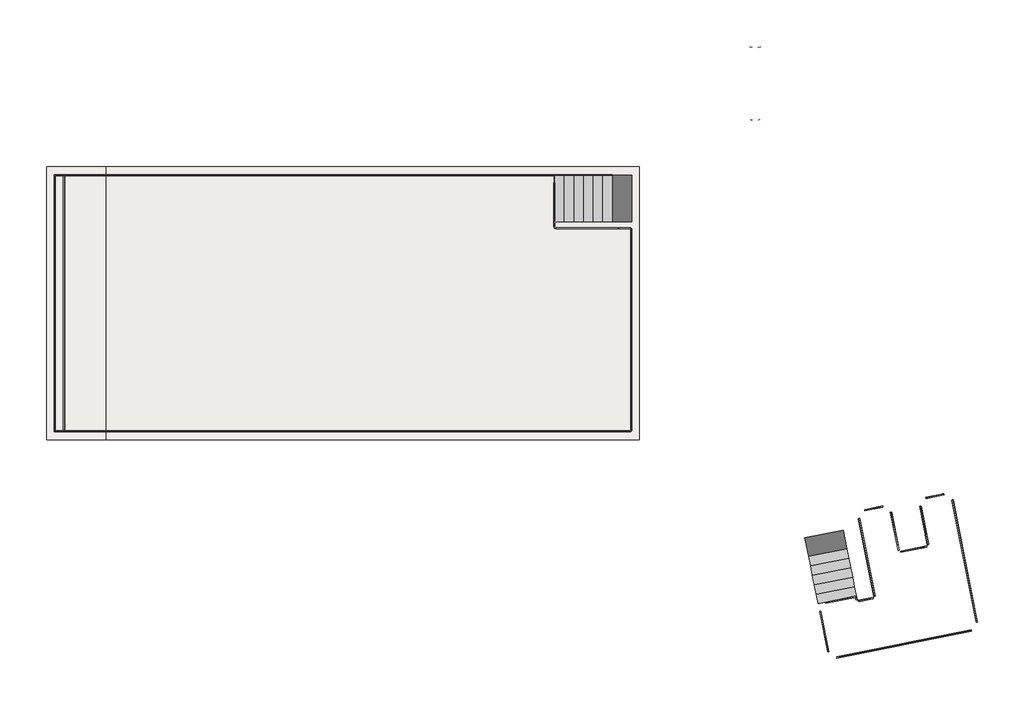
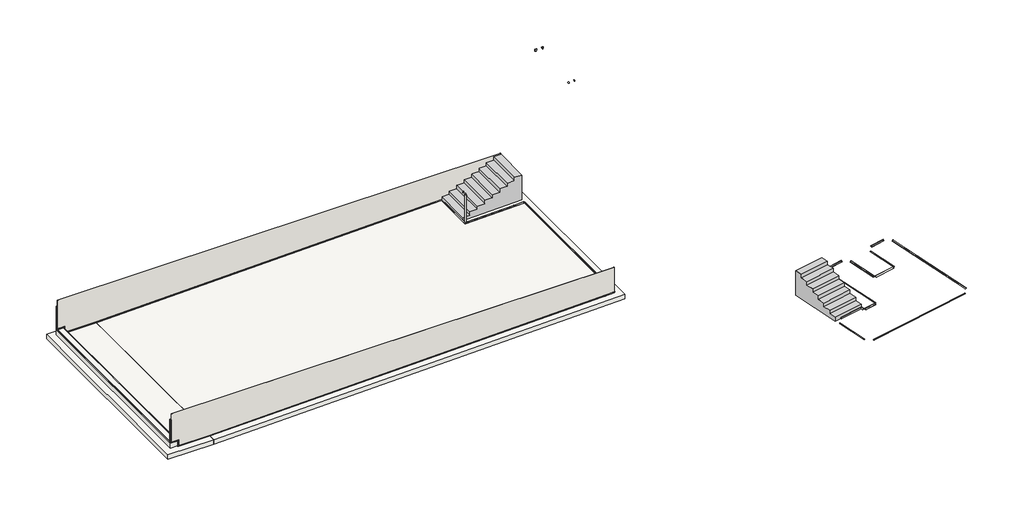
# One storey, incomplete: 38 slabs, 13 proxies, 3 walls, 2 stairs.
"""IFC4 building model written with IfcOpenShell, lengths in millimetres."""

from ifc_helpers import new_model, si_unit, frame, origin, place, context, project, spatial, polyline, outline, extrude, faceted_brep, transform, mapped, element, save
from components import pieza_114_aqua_azul_liso_fd1d6eeb, pieza_115_aqua_azul_anti_slip_2f38e3b8, pieza_116_aqua_azul_liso_e9a23e22, pieza_112_aqua_azul_liso_2357ec52, pieza_112_aqua_azul_liso_420040c8, pieza_112_aqua_azul_liso_63a14f7b, pieza_112_aqua_azul_liso_4e2f667c, pieza_112_aqua_azul_liso_2e144e22, pieza_112_aqua_azul_liso_e5a649f2, pieza_112_aqua_azul_liso_4ddbef43, pieza_112_aqua_azul_liso_153d0df2, pieza_112_aqua_azul_liso_1d791782, pieza_112_aqua_azul_liso_3965653e, pieza_112_aqua_azul_liso_69a263eb, pieza_112_aqua_azul_liso_b1956d64, pieza_112_aqua_azul_liso_6104ae89, pieza_112_aqua_azul_liso_401beb7e, pieza_112_aqua_azul_liso_5a065275, pieza_112_aqua_azul_liso_7449915b, pieza_112_aqua_azul_liso_1b1000f3, pieza_112_aqua_azul_liso_9c2345ba, pieza_112_aqua_azul_liso_7a62d313, pieza_112_aqua_azul_liso_100cf10b, pieza_112_aqua_azul_liso_19044048, pieza_112_aqua_azul_liso_17dfa691, pieza_112_aqua_azul_liso_063fb988, pieza_112_aqua_azul_liso_38c58097, pieza_112_aqua_azul_liso_dedf870e, pieza_112_aqua_azul_liso_ddc9c549, pieza_112_aqua_azul_liso_9a706029, pieza_112_aqua_azul_liso_16b9f8b8, pieza_112_aqua_azul_liso_6c293751, pieza_138_aqua_azul_liso_61aa3b8b, pieza_138_aqua_azul_liso_4e60f0d0, escalera_p1_escalera_p1_af88919a, escalera_p3_escalera_p3_fb3b3af3

model = new_model("IFC4")

# Units and contexts
model_context = context("Model", 3, world=origin())
ifc_project = project(units=[si_unit("LENGTHUNIT", "METRE", prefix="MILLI")], contexts=[model_context])

# Site, building, storey
site = spatial("IfcSite", under=ifc_project)
building = spatial("IfcBuilding", under=site)
storey = spatial("IfcBuildingStorey", under=building, Name="5_NFondo2P1 -1.6", Elevation=-1600.4)

# Proxies
placement = place(None, origin())
pieza_114_aqua_azul_liso_shape = pieza_114_aqua_azul_liso_fd1d6eeb(model_context)
element("IfcBuildingElementProxy", 1, Name="ROSA GRES_114 : Pieza 114_Aqua_Azul_Liso", ObjectType="ROSA GRES_114 : Pieza 114_Aqua_Azul_Liso", at=placement, inside=storey, context=model_context, shape_type="MappedRepresentation", body=[
    mapped(pieza_114_aqua_azul_liso_shape, transform((25488.3846824, -35211.5019609, -1209.4155011), x_axis=(-0.9997016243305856, 0.0, -0.024426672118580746), y_axis=(0.0, -1.0, 0.0), z_axis=(-0.024426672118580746, 0.0, 0.9997016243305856))),
])
element("IfcBuildingElementProxy", 2, Name="ROSA GRES_114 : Pieza 114_Aqua_Azul_Liso", ObjectType="ROSA GRES_114 : Pieza 114_Aqua_Azul_Liso", at=placement, inside=storey, context=model_context, shape_type="MappedRepresentation", body=[
    mapped(pieza_114_aqua_azul_liso_shape, transform((7767.4274549, -27191.4842352, -1610.4), x_axis=(1.0, 0.0, 0.0), y_axis=(0.0, 1.0, 0.0), z_axis=(0.0, 0.0, 1.0))),
])
element("IfcBuildingElementProxy", 3, Name="ROSA GRES_114 : Pieza 114_Aqua_Azul_Liso", ObjectType="ROSA GRES_114 : Pieza 114_Aqua_Azul_Liso", at=placement, inside=storey, context=model_context, shape_type="MappedRepresentation", body=[
    mapped(pieza_114_aqua_azul_liso_shape, transform((7767.4274549, -35211.5019609, -1610.4), x_axis=(0.0, 1.0, 0.0), y_axis=(-1.0, 0.0, 0.0), z_axis=(0.0, 0.0, 1.0))),
])
element("IfcBuildingElementProxy", 4, Name="ROSA GRES_114 : Pieza 114_Aqua_Azul_Liso", ObjectType="ROSA GRES_114 : Pieza 114_Aqua_Azul_Liso", at=placement, inside=storey, context=model_context, shape_type="MappedRepresentation", body=[
    mapped(pieza_114_aqua_azul_liso_shape, transform((25488.4008795, -28841.4842352, -1209.419462), x_axis=(0.0, -1.0, 0.0), y_axis=(0.9997016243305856, 0.0, 0.024426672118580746), z_axis=(-0.024426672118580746, 0.0, 0.9997016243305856))),
])
pieza_115_aqua_azul_anti_slip_shape = pieza_115_aqua_azul_anti_slip_2f38e3b8(model_context)
element("IfcBuildingElementProxy", 5, Name="ROSA GRES_115 : Pieza 115_Aqua_Azul_Anti-Slip", ObjectType="ROSA GRES_115 : Pieza 115_Aqua_Azul_Anti-Slip", at=placement, inside=storey, context=model_context, shape_type="MappedRepresentation", body=[
    mapped(pieza_115_aqua_azul_anti_slip_shape, transform((23117.4363125, -28691.493098, -40.4), x_axis=(-1.0, 0.0, 0.0), y_axis=(0.0, -1.0, 0.0), z_axis=(0.0, 0.0, 1.0))),
])
element("IfcBuildingElementProxy", 6, Name="ROSA GRES_115 : Pieza 115_Aqua_Azul_Anti-Slip", ObjectType="ROSA GRES_115 : Pieza 115_Aqua_Azul_Anti-Slip", at=placement, inside=storey, context=model_context, shape_type="MappedRepresentation", body=[
    mapped(pieza_115_aqua_azul_anti_slip_shape, transform((23117.3978394, -28811.5196866, -40.4), x_axis=(0.0, -1.0, 0.0), y_axis=(1.0, 0.0, 0.0), z_axis=(0.0, 0.0, 1.0))),
])
element("IfcBuildingElementProxy", 7, Name="ROSA GRES_115 : Pieza 115_Aqua_Azul_Anti-Slip", ObjectType="ROSA GRES_115 : Pieza 115_Aqua_Azul_Anti-Slip", at=placement, inside=storey, context=model_context, shape_type="MappedRepresentation", body=[
    mapped(pieza_115_aqua_azul_anti_slip_shape, transform((29437.4363177, -25461.493098, 559.6), x_axis=(1.0, 0.0, 0.0), y_axis=(0.0, 1.0, 0.0), z_axis=(0.0, 0.0, 1.0))),
])
element("IfcBuildingElementProxy", 8, Name="ROSA GRES_115 : Pieza 115_Aqua_Azul_Anti-Slip", ObjectType="ROSA GRES_115 : Pieza 115_Aqua_Azul_Anti-Slip", at=placement, inside=storey, context=model_context, shape_type="MappedRepresentation", body=[
    mapped(pieza_115_aqua_azul_anti_slip_shape, transform((29232.4363177, -25461.493098, 559.6), x_axis=(0.0, -1.0, 0.0), y_axis=(1.0, 0.0, 0.0), z_axis=(0.0, 0.0, 1.0))),
])
pieza_116_aqua_azul_liso_shape = pieza_116_aqua_azul_liso_e9a23e22(model_context)
element("IfcBuildingElementProxy", 9, Name="ROSA GRES_116 : Pieza 116_Aqua_Azul_Liso", ObjectType="ROSA GRES_116 : Pieza 116_Aqua_Azul_Liso", at=placement, inside=storey, context=model_context, shape_type="MappedRepresentation", body=[
    mapped(pieza_116_aqua_azul_liso_shape, transform((7737.4363177, -27191.5196869, -1390.4), x_axis=(0.0, 0.0, 1.0), y_axis=(-1.0, 0.0, 0.0), z_axis=(0.0, -1.0, 0.0))),
])
element("IfcBuildingElementProxy", 10, Name="ROSA GRES_116 : Pieza 116_Aqua_Azul_Liso", ObjectType="ROSA GRES_116 : Pieza 116_Aqua_Azul_Liso", at=placement, inside=storey, context=model_context, shape_type="MappedRepresentation", body=[
    mapped(pieza_116_aqua_azul_liso_shape, transform((7737.4363177, -35211.4665095, -1390.4), x_axis=(1.0, 0.0, 0.0), y_axis=(0.0, 0.0, -1.0), z_axis=(0.0, 1.0, 0.0))),
])
element("IfcBuildingElementProxy", 11, Name="ROSA GRES_116 : Pieza 116_Aqua_Azul_Liso", ObjectType="ROSA GRES_116 : Pieza 116_Aqua_Azul_Liso", at=placement, inside=storey, context=model_context, shape_type="MappedRepresentation", body=[
    mapped(pieza_116_aqua_azul_liso_shape, transform((23118.3240854, -28811.5196866, -1267.3254732), x_axis=(0.0, -1.0, 0.0), y_axis=(0.9997016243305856, 0.0, 0.024426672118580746), z_axis=(-0.024426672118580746, 0.0, 0.9997016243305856))),
])
element("IfcBuildingElementProxy", 12, Name="ROSA GRES_116 : Pieza 116_Aqua_Azul_Liso", ObjectType="ROSA GRES_116 : Pieza 116_Aqua_Azul_Liso", at=placement, inside=storey, context=model_context, shape_type="MappedRepresentation", body=[
    mapped(pieza_116_aqua_azul_liso_shape, transform((29437.4629063, -23191.5196869, 559.6), x_axis=(0.0, 0.0, 1.0), y_axis=(-1.0, 0.0, 0.0), z_axis=(0.0, -1.0, 0.0))),
])
element("IfcBuildingElementProxy", 13, Name="ROSA GRES_116 : Pieza 116_Aqua_Azul_Liso", ObjectType="ROSA GRES_116 : Pieza 116_Aqua_Azul_Liso", at=placement, inside=storey, context=model_context, shape_type="MappedRepresentation", body=[
    mapped(pieza_116_aqua_azul_liso_shape, transform((29232.4363177, -23191.5196869, 559.6), x_axis=(-1.0, 0.0, 0.0), y_axis=(0.0, 0.0, -1.0), z_axis=(0.0, -1.0, 0.0))),
])

# Slabs
element("IfcSlab", 14, ObjectType="GENÉRICO_LOSA PISCINA_Estructura_20 cm", at=placement, inside=storey, context=model_context, shape_type="SweptSolid", body=[
    extrude(outline(polyline([(7227.4363177, -26942.493098), (9077.4363177, -26942.493098), (9077.4363177, -35460.493098), (7227.4363177, -35460.493098), (7227.4363177, -26942.493098)])), frame((0.0, 0.0, -1810.4), z_axis=(0.0, 0.0, 1.0), x_axis=(1.0, 0.0, 0.0)), (0.0, 0.0, 1.0), 200.0),
])
element("IfcSlab", 15, ObjectType="GENÉRICO_LOSA PISCINA_Estructura_20 cm", at=placement, inside=storey, context=model_context, shape_type="SweptSolid", body=[
    extrude(outline(polyline([(-1810.4596929, 9077.4363177), (-1403.6342153, 25727.4363177), (-1203.5745224, 25727.4363177), (-1610.4, 9077.4363177), (-1810.4596929, 9077.4363177)])), frame((0.0, -35460.493098, 0.0), z_axis=(0.0, 1.0, 0.0), x_axis=(0.0, 0.0, 1.0)), (0.0, 0.0, 1.0), 8518.0),
])
element("IfcSlab", 16, ObjectType="Pieza 244 G1_Patrón Recto_Aqua_Azul_Liso", at=placement, inside=storey, context=model_context, shape_type="SweptSolid", body=[
    extrude(outline(polyline([(7737.4363177, -27231.493098), (7737.4363177, -35171.493098), (7507.4363177, -35171.493098), (7507.4363177, -27231.493098), (7737.4363177, -27231.493098)])), frame((0.0, 0.0, -1359.4), z_axis=(0.0, 0.0, 1.0), x_axis=(1.0, 0.0, 0.0)), (0.0, 0.0, 1.0), 9.0),
])
element("IfcSlab", 17, ObjectType="Pieza 244 G1_Patrón Recto_Aqua_Azul_Liso", at=placement, inside=storey, context=model_context, shape_type="SweptSolid", body=[
    extrude(outline(polyline([(7807.0363177, -27231.5196866), (9077.4363177, -27231.5196866), (9077.4363177, -35171.4665095), (7807.0363177, -35171.4665095), (7807.0363177, -27231.5196866)])), frame((0.0, 0.0, -1609.4), z_axis=(0.0, 0.0, 1.0), x_axis=(1.0, 0.0, 0.0)), (0.0, 0.0, 1.0), 9.0),
])
element("IfcSlab", 18, ObjectType="GENÉRICO_LOSA PISCINA_Estructura_20 cm", at=placement, inside=storey, context=model_context, shape_type="SweptSolid", body=[
    extrude(outline(polyline([(7752.4274549, -27192.493098), (7752.4274549, -35210.493098), (7468.4363177, -35210.493098), (7468.4363177, -27192.493098), (7752.4274549, -27192.493098)])), frame((0.0, 0.0, -1560.4), z_axis=(0.0, 0.0, 1.0), x_axis=(1.0, 0.0, 0.0)), (0.0, 0.0, 1.0), 200.0),
])
element("IfcSlab", 19, ObjectType="Pieza 244 G1_Patrón Recto_Aqua_Azul_Liso", at=placement, inside=storey, context=model_context, shape_type="Brep", body=[
    faceted_brep([(9077.4363177, -27231.5196866, -1609.4026862), (23048.1098108, -27231.5196866, -1268.0433991), (23048.1098108, -28881.5196866, -1268.0433991), (25448.0745536, -28881.5196866, -1209.4026862), (25448.0745536, -35171.4665095, -1209.4026862), (9077.4363177, -35171.4665095, -1609.4026862), (9077.4363177, -27231.5196866, -1600.4), (9077.4363177, -35171.4665095, -1600.4), (25448.0745536, -35171.4665095, -1200.4), (25448.0745536, -28881.5196866, -1200.4), (23048.1098108, -28881.5196866, -1259.0407129), (23048.1098108, -27231.5196866, -1259.0407129)], [[[0, 1, 2, 3, 4, 5]], [[6, 7, 8, 9, 10, 11]], [[1, 0, 6, 11]], [[2, 1, 11, 10]], [[3, 2, 10, 9]], [[4, 3, 9, 8]], [[5, 4, 8, 7]], [[0, 5, 7, 6]]]),
])
pieza_112_aqua_azul_liso_shape = pieza_112_aqua_azul_liso_2357ec52(model_context)
element("IfcSlab", 20, ObjectType="ROSA GRES_112 : Pieza 112_Aqua_Azul_Liso", at=placement, inside=storey, context=model_context, shape_type="MappedRepresentation", body=[
    mapped(pieza_112_aqua_azul_liso_shape, transform((7807.5196457, -27191.5196866, -1610.4), x_axis=(1.0, 0.0, 0.0), y_axis=(0.0, 1.0, 0.0), z_axis=(0.0, 0.0, 1.0))),
])
pieza_112_aqua_azul_liso_2_shape = pieza_112_aqua_azul_liso_420040c8(model_context)
element("IfcSlab", 21, ObjectType="ROSA GRES_112 : Pieza 112_Aqua_Azul_Liso", at=placement, inside=storey, context=model_context, shape_type="MappedRepresentation", body=[
    mapped(pieza_112_aqua_azul_liso_2_shape, transform((7767.4629063, -35171.4687669, -1610.4), x_axis=(0.0, 1.0, 0.0), y_axis=(-1.0, 0.0, 0.0), z_axis=(0.0, 0.0, 1.0))),
])
element("IfcSlab", 22, ObjectType="ROSA GRES_112 : Pieza 112_Aqua_Azul_Liso", at=placement, inside=storey, context=model_context, shape_type="MappedRepresentation", body=[
    mapped(pieza_112_aqua_azul_liso_2_shape, transform((7467.4629063, -35171.493098, -1360.4), x_axis=(0.0, 1.0, 0.0), y_axis=(-1.0, 0.0, 0.0), z_axis=(0.0, 0.0, 1.0))),
])
pieza_112_aqua_azul_liso_3_shape = pieza_112_aqua_azul_liso_63a14f7b(model_context)
element("IfcSlab", 23, ObjectType="ROSA GRES_112 : Pieza 112_Aqua_Azul_Liso", at=placement, inside=storey, context=model_context, shape_type="MappedRepresentation", body=[
    mapped(pieza_112_aqua_azul_liso_3_shape, transform((7807.4629063, -35211.4665095, -1610.4), x_axis=(1.0, 0.0, 0.0), y_axis=(0.0, 1.0, 0.0), z_axis=(0.0, 0.0, 1.0))),
])
pieza_112_aqua_azul_liso_4_shape = pieza_112_aqua_azul_liso_4e2f667c(model_context)
element("IfcSlab", 24, ObjectType="ROSA GRES_112 : Pieza 112_Aqua_Azul_Liso", at=placement, inside=storey, context=model_context, shape_type="MappedRepresentation", body=[
    mapped(pieza_112_aqua_azul_liso_4_shape, transform((25073.4265433, -35211.4665095, -1219.5545728), x_axis=(-0.9997016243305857, 0.0, -0.02442667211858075), y_axis=(0.0, -1.0, 0.0), z_axis=(-0.024426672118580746, 0.0, 0.9997016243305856))),
])
pieza_112_aqua_azul_liso_5_shape = pieza_112_aqua_azul_liso_2e144e22(model_context)
element("IfcSlab", 25, ObjectType="ROSA GRES_112 : Pieza 112_Aqua_Azul_Liso", at=placement, inside=storey, context=model_context, shape_type="MappedRepresentation", body=[
    mapped(pieza_112_aqua_azul_liso_5_shape, transform((25488.3062359, -29171.396514, -1209.4174179), x_axis=(0.0, -1.0, 0.0), y_axis=(0.9997016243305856, 0.0, 0.024426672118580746), z_axis=(-0.024426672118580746, 0.0, 0.9997016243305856))),
])
pieza_112_aqua_azul_liso_6_shape = pieza_112_aqua_azul_liso_e5a649f2(model_context)
element("IfcSlab", 26, ObjectType="ROSA GRES_112 : Pieza 112_Aqua_Azul_Liso", at=placement, inside=storey, context=model_context, shape_type="MappedRepresentation", body=[
    mapped(pieza_112_aqua_azul_liso_6_shape, transform((9077.5195961, -27191.5196866, -1610.3979652), x_axis=(0.9997016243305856, 0.0, 0.02442667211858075), y_axis=(0.0, 1.0, 0.0), z_axis=(-0.024426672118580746, 0.0, 0.9997016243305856))),
])
pieza_112_aqua_azul_liso_7_shape = pieza_112_aqua_azul_liso_4ddbef43(model_context)
element("IfcSlab", 27, ObjectType="ROSA GRES_112 : Pieza 112_Aqua_Azul_Liso", at=placement, inside=storey, context=model_context, shape_type="MappedRepresentation", body=[
    mapped(pieza_112_aqua_azul_liso_7_shape, transform((7507.4363177, -35211.4665095, -1360.4), x_axis=(1.0, 0.0, 0.0), y_axis=(0.0, 1.0, 0.0), z_axis=(0.0, 0.0, 1.0))),
])
pieza_112_aqua_azul_liso_8_shape = pieza_112_aqua_azul_liso_153d0df2(model_context)
element("IfcSlab", 28, ObjectType="ROSA GRES_112 : Pieza 112_Aqua_Azul_Liso", at=placement, inside=storey, context=model_context, shape_type="MappedRepresentation", body=[
    mapped(pieza_112_aqua_azul_liso_8_shape, transform((7507.4363177, -27191.5196866, -1360.4), x_axis=(1.0, 0.0, 0.0), y_axis=(0.0, 1.0, 0.0), z_axis=(0.0, 0.0, 1.0))),
])
pieza_112_aqua_azul_liso_9_shape = pieza_112_aqua_azul_liso_1d791782(model_context)
element("IfcSlab", 29, ObjectType="ROSA GRES_112 : Pieza 112_Aqua_Azul_Liso", at=placement, inside=storey, context=model_context, shape_type="MappedRepresentation", body=[
    mapped(pieza_112_aqua_azul_liso_9_shape, transform((7767.4363177, -27191.4665095, -1570.4), x_axis=(0.0, 0.0, 1.0), y_axis=(0.0, -1.0, 0.0), z_axis=(1.0, 0.0, 0.0))),
])
pieza_112_aqua_azul_liso_10_shape = pieza_112_aqua_azul_liso_3965653e(model_context)
element("IfcSlab", 30, ObjectType="ROSA GRES_112 : Pieza 112_Aqua_Azul_Liso", at=placement, inside=storey, context=model_context, shape_type="MappedRepresentation", body=[
    mapped(pieza_112_aqua_azul_liso_10_shape, transform((7767.4629063, -35211.4665095, -1570.3645486), x_axis=(0.0, 0.0, 1.0), y_axis=(0.0, -1.0, 0.0), z_axis=(1.0, 0.0, 0.0))),
])
pieza_112_aqua_azul_liso_11_shape = pieza_112_aqua_azul_liso_69a263eb(model_context)
element("IfcSlab", 31, ObjectType="ROSA GRES_112 : Pieza 112_Aqua_Azul_Liso", at=placement, inside=storey, context=model_context, shape_type="MappedRepresentation", body=[
    mapped(pieza_112_aqua_azul_liso_11_shape, transform((25072.7407609, -28841.5196866, -1219.5713292), x_axis=(-0.9997016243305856, 0.0, -0.024426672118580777), y_axis=(0.0, -1.0, 0.0), z_axis=(-0.024426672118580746, 0.0, 0.9997016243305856))),
])
pieza_112_aqua_azul_liso_12_shape = pieza_112_aqua_azul_liso_b1956d64(model_context)
element("IfcSlab", 32, ObjectType="ROSA GRES_112 : Pieza 112_Aqua_Azul_Liso", at=placement, inside=storey, context=model_context, shape_type="MappedRepresentation", body=[
    mapped(pieza_112_aqua_azul_liso_12_shape, transform((23088.3414931, -27434.981981, -1268.0580667), x_axis=(0.0, -1.0, 0.0), y_axis=(0.9997016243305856, 0.0, 0.024426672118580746), z_axis=(-0.024426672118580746, 0.0, 0.9997016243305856))),
])
pieza_112_aqua_azul_liso_13_shape = pieza_112_aqua_azul_liso_6104ae89(model_context)
element("IfcSlab", 33, ObjectType="ROSA GRES_112 : Pieza 112_Aqua_Azul_Liso", at=placement, inside=storey, context=model_context, shape_type="MappedRepresentation", body=[
    mapped(pieza_112_aqua_azul_liso_13_shape, transform((25073.4265433, -35211.4665095, -1219.5545728), x_axis=(0.9997016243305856, 0.0, 0.024426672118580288), y_axis=(0.0, 0.9999999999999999, 0.0), z_axis=(-0.024426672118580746, 0.0, 0.9997016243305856))),
])
pieza_112_aqua_azul_liso_14_shape = pieza_112_aqua_azul_liso_401beb7e(model_context)
element("IfcSlab", 34, ObjectType="ROSA GRES_112 : Pieza 112_Aqua_Azul_Liso", at=placement, inside=storey, context=model_context, shape_type="MappedRepresentation", body=[
    mapped(pieza_112_aqua_azul_liso_14_shape, transform((25488.3062359, -29171.3859473, -1209.415968), x_axis=(0.0, 1.0, 0.0), y_axis=(-0.9997016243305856, 0.0, -0.024426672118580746), z_axis=(-0.024426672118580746, 0.0, 0.9997016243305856))),
])
pieza_112_aqua_azul_liso_15_shape = pieza_112_aqua_azul_liso_5a065275(model_context)
element("IfcSlab", 35, ObjectType="ROSA GRES_112 : Pieza 112_Aqua_Azul_Liso", at=placement, inside=storey, context=model_context, shape_type="MappedRepresentation", body=[
    mapped(pieza_112_aqua_azul_liso_15_shape, transform((7467.4363177, -27191.493098, -357.0549087), x_axis=(0.0, 0.0, -1.0), y_axis=(0.0, 1.0, 0.0), z_axis=(1.0, 0.0, 0.0))),
])
pieza_112_aqua_azul_liso_16_shape = pieza_112_aqua_azul_liso_7449915b(model_context)
element("IfcSlab", 36, ObjectType="ROSA GRES_112 : Pieza 112_Aqua_Azul_Liso", at=placement, inside=storey, context=model_context, shape_type="MappedRepresentation", body=[
    mapped(pieza_112_aqua_azul_liso_16_shape, transform((7467.4363177, -35211.493098, -357.1768947), x_axis=(0.0, 0.0, -1.0), y_axis=(-1.0, 0.0, 0.0), z_axis=(0.0, 1.0, 0.0))),
])
pieza_112_aqua_azul_liso_17_shape = pieza_112_aqua_azul_liso_1b1000f3(model_context)
element("IfcSlab", 37, ObjectType="ROSA GRES_112 : Pieza 112_Aqua_Azul_Liso", at=placement, inside=storey, context=model_context, shape_type="MappedRepresentation", body=[
    mapped(pieza_112_aqua_azul_liso_17_shape, transform((25072.7407609, -28841.5196866, -1219.5713292), x_axis=(0.9997016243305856, 0.0, 0.02442667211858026), y_axis=(0.0, 0.9999999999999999, 0.0), z_axis=(-0.024426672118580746, 0.0, 0.9997016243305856))),
])
pieza_112_aqua_azul_liso_18_shape = pieza_112_aqua_azul_liso_9c2345ba(model_context)
element("IfcSlab", 38, ObjectType="ROSA GRES_112 : Pieza 112_Aqua_Azul_Liso", at=placement, inside=storey, context=model_context, shape_type="MappedRepresentation", body=[
    mapped(pieza_112_aqua_azul_liso_18_shape, transform((36272.4032277, -41145.321454, -1210.5), x_axis=(-0.19618194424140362, 0.9805675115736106, 0.0), y_axis=(-0.9805675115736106, -0.19618194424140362, 0.0), z_axis=(0.0, 0.0, 1.0))),
])
pieza_112_aqua_azul_liso_19_shape = pieza_112_aqua_azul_liso_7a62d313(model_context)
element("IfcSlab", 39, ObjectType="ROSA GRES_112 : Pieza 112_Aqua_Azul_Liso", at=placement, inside=storey, context=model_context, shape_type="MappedRepresentation", body=[
    mapped(pieza_112_aqua_azul_liso_19_shape, transform((35223.0299158, -37141.7247214, -1210.5), x_axis=(-0.9805675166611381, -0.19618191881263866, 0.0), y_axis=(0.19618191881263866, -0.9805675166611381, 0.0), z_axis=(0.0, 0.0, 1.0))),
])
pieza_112_aqua_azul_liso_20_shape = pieza_112_aqua_azul_liso_100cf10b(model_context)
element("IfcSlab", 40, ObjectType="ROSA GRES_112 : Pieza 112_Aqua_Azul_Liso", at=placement, inside=storey, context=model_context, shape_type="MappedRepresentation", body=[
    mapped(pieza_112_aqua_azul_liso_20_shape, transform((33310.9706419, -37524.2700055, -1210.5), x_axis=(-0.9805675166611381, -0.19618191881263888, 0.0), y_axis=(0.19618191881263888, -0.9805675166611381, 0.0), z_axis=(0.0, 0.0, 1.0))),
])
pieza_112_aqua_azul_liso_21_shape = pieza_112_aqua_azul_liso_19044048(model_context)
element("IfcSlab", 41, ObjectType="ROSA GRES_112 : Pieza 112_Aqua_Azul_Liso", at=placement, inside=storey, context=model_context, shape_type="MappedRepresentation", body=[
    mapped(pieza_112_aqua_azul_liso_21_shape, transform((32559.85165, -37922.8717931, -1210.5), x_axis=(0.19618194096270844, -0.9805675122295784, 0.0), y_axis=(0.9805675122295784, 0.19618194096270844, 0.0), z_axis=(0.0, 0.0, 1.0))),
])
pieza_112_aqua_azul_liso_22_shape = pieza_112_aqua_azul_liso_17dfa691(model_context)
element("IfcSlab", 42, ObjectType="ROSA GRES_112 : Pieza 112_Aqua_Azul_Liso", at=placement, inside=storey, context=model_context, shape_type="MappedRepresentation", body=[
    mapped(pieza_112_aqua_azul_liso_22_shape, transform((33836.5001517, -38909.8062875, -1210.5), x_axis=(-0.1961819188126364, 0.9805675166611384, 0.0), y_axis=(-0.9805675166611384, -0.1961819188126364, 0.0), z_axis=(0.0, 0.0, 1.0))),
])
pieza_112_aqua_azul_liso_23_shape = pieza_112_aqua_azul_liso_063fb988(model_context)
element("IfcSlab", 43, ObjectType="ROSA GRES_112 : Pieza 112_Aqua_Azul_Liso", at=placement, inside=storey, context=model_context, shape_type="MappedRepresentation", body=[
    mapped(pieza_112_aqua_azul_liso_23_shape, transform((34687.545059, -38770.1324552, -1210.5), x_axis=(-0.9805675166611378, -0.19618191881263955, 0.0), y_axis=(0.19618191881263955, -0.9805675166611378, 0.0), z_axis=(0.0, 0.0, 1.0))),
])
pieza_112_aqua_azul_liso_24_shape = pieza_112_aqua_azul_liso_38c58097(model_context)
element("IfcSlab", 44, ObjectType="ROSA GRES_112 : Pieza 112_Aqua_Azul_Liso", at=placement, inside=storey, context=model_context, shape_type="MappedRepresentation", body=[
    mapped(pieza_112_aqua_azul_liso_24_shape, transform((34472.0157497, -37540.3007806, -1210.5), x_axis=(0.19618191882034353, -0.9805675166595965, 0.0), y_axis=(0.9805675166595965, 0.19618191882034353, 0.0), z_axis=(0.0, 0.0, 1.0))),
])
pieza_112_aqua_azul_liso_25_shape = pieza_112_aqua_azul_liso_dedf870e(model_context)
element("IfcSlab", 45, ObjectType="ROSA GRES_112 : Pieza 112_Aqua_Azul_Liso", at=placement, inside=storey, context=model_context, shape_type="MappedRepresentation", body=[
    mapped(pieza_112_aqua_azul_liso_25_shape, transform((32554.3467484, -40474.1670361, -1210.5), x_axis=(0.9805674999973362, 0.19618200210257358, 0.0), y_axis=(-0.19618200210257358, 0.9805674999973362, 0.0), z_axis=(0.0, 0.0, 1.0))),
])
pieza_112_aqua_azul_liso_26_shape = pieza_112_aqua_azul_liso_ddc9c549(model_context)
element("IfcSlab", 46, ObjectType="ROSA GRES_112 : Pieza 112_Aqua_Azul_Liso", at=placement, inside=storey, context=model_context, shape_type="MappedRepresentation", body=[
    mapped(pieza_112_aqua_azul_liso_26_shape, transform((31887.2179669, -42271.1058847, -1210.5), x_axis=(0.9805675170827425, 0.19618191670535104, 0.0), y_axis=(-0.19618191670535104, 0.9805675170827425, 0.0), z_axis=(0.0, 0.0, 1.0))),
])
pieza_112_aqua_azul_liso_27_shape = pieza_112_aqua_azul_liso_9a706029(model_context)
element("IfcSlab", 47, ObjectType="ROSA GRES_112 : Pieza 112_Aqua_Azul_Liso", at=placement, inside=storey, context=model_context, shape_type="MappedRepresentation", body=[
    mapped(pieza_112_aqua_azul_liso_27_shape, transform((31537.9399293, -40524.5466249, -1210.5), x_axis=(0.9805675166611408, 0.19618191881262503, 0.0), y_axis=(-0.19618191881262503, 0.9805675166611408, 0.0), z_axis=(0.0, 0.0, 1.0))),
])
pieza_112_aqua_azul_liso_28_shape = pieza_112_aqua_azul_liso_16b9f8b8(model_context)
element("IfcSlab", 48, ObjectType="ROSA GRES_112 : Pieza 112_Aqua_Azul_Liso", at=placement, inside=storey, context=model_context, shape_type="MappedRepresentation", body=[
    mapped(pieza_112_aqua_azul_liso_28_shape, transform((32495.5024216, -40332.9673161, -1210.5), x_axis=(0.1961819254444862, -0.9805675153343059, 0.0), y_axis=(0.9805675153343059, 0.1961819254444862, 0.0), z_axis=(0.0, 0.0, 1.0))),
])
pieza_112_aqua_azul_liso_29_shape = pieza_112_aqua_azul_liso_6c293751(model_context)
element("IfcSlab", 49, ObjectType="ROSA GRES_112 : Pieza 112_Aqua_Azul_Liso", at=placement, inside=storey, context=model_context, shape_type="MappedRepresentation", body=[
    mapped(pieza_112_aqua_azul_liso_29_shape, transform((31600.8312746, -42079.6185793, -1210.5), x_axis=(-0.19618191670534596, 0.9805675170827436, 0.0), y_axis=(-0.9805675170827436, -0.19618191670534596, 0.0), z_axis=(0.0, 0.0, 1.0))),
])
pieza_138_aqua_azul_liso_shape = pieza_138_aqua_azul_liso_61aa3b8b(model_context)
element("IfcSlab", 50, ObjectType="ROSA GRES_138 : Pieza 138_Aqua_Azul_Liso", at=placement, inside=storey, context=model_context, shape_type="MappedRepresentation", body=[
    mapped(pieza_138_aqua_azul_liso_shape, transform((7737.4363177, -35171.4665095, -1390.4), x_axis=(0.0, 1.0, 0.0), y_axis=(0.0, 0.0, 1.0), z_axis=(1.0, 0.0, 0.0))),
])
pieza_138_aqua_azul_liso_2_shape = pieza_138_aqua_azul_liso_4e60f0d0(model_context)
element("IfcSlab", 51, ObjectType="ROSA GRES_138 : Pieza 138_Aqua_Azul_Liso", at=placement, inside=storey, context=model_context, shape_type="MappedRepresentation", body=[
    mapped(pieza_138_aqua_azul_liso_2_shape, transform((23117.3978394, -28811.5196866, -1228.0695589), x_axis=(0.0, 0.0, 1.0), y_axis=(0.0, 1.0, 0.0), z_axis=(-1.0, 0.0, 0.0))),
])

# Stairs
escalera_p1_escalera_p1_shape = escalera_p1_escalera_p1_af88919a(model_context)
element("IfcStair", 52, ObjectType="Escalera P1 : Escalera P1", at=placement, inside=storey, context=model_context, shape_type="MappedRepresentation", body=[
    mapped(escalera_p1_escalera_p1_shape, transform((0.0, 0.0, 0.0), x_axis=(1.0, 0.0, 0.0), y_axis=(0.0, 1.0, 0.0), z_axis=(0.0, 0.0, 1.0))),
])
escalera_p3_escalera_p3_shape = escalera_p3_escalera_p3_fb3b3af3(model_context)
element("IfcStair", 53, ObjectType="Escalera P3 : Escalera P3", at=placement, inside=storey, context=model_context, shape_type="MappedRepresentation", body=[
    mapped(escalera_p3_escalera_p3_shape, transform((0.0, 0.0, 0.0), x_axis=(1.0, 0.0, 0.0), y_axis=(0.0, 1.0, 0.0), z_axis=(0.0, 0.0, 1.0))),
])

# Walls
element("IfcWall", 54, ObjectType="Pieza 244 G1_Patrón Recto_Aqua_Azul_Liso", at=placement, inside=storey, context=model_context, shape_type="SweptSolid", body=[
    extrude(outline(polyline([(-1320.4, 7507.4363177), (-1320.4, 7807.4363177), (-1570.4, 7807.4363177), (-1570.4, 9076.9477114), (-1228.2026674, 23086.4363125), (-1126.9281195, 23086.4363125), (-1126.9281195, 23377.3939906), (-987.0881195, 23377.3939906), (-987.0881195, 23677.3939906), (-847.2481195, 23677.3939906), (-847.2481195, 23977.3939906), (-707.4081195, 23977.3939906), (-707.4081195, 24277.3939906), (-567.5681195, 24277.3939906), (-567.5681195, 24577.3939906), (-427.7281195, 24577.3939906), (-427.7281195, 24877.3939906), (-287.8881195, 24877.3939906), (-287.8881195, 25177.3939906), (-148.0481195, 25177.3939906), (-148.0481195, 25481.9363125), (-107.0549087, 25481.9363125), (-107.0549087, 7507.4363177), (-1320.4, 7507.4363177)])), frame((0.0, -27201.493098, 0.0), z_axis=(0.0, 1.0, 0.0), x_axis=(0.0, 0.0, 1.0)), (0.0, 0.0, 1.0), 9.0),
])
element("IfcWall", 55, ObjectType="Pieza 244 G1_Patrón Recto_Aqua_Azul_Liso", at=placement, inside=storey, context=model_context, shape_type="SweptSolid", body=[
    extrude(outline(polyline([(-1170.4060364, 25447.3567944), (-107.0549087, 25447.3567944), (-107.0549087, 7507.4363177), (-1320.4, 7507.4363177), (-1320.4, 7807.4629063), (-1570.4, 7807.4629063), (-1570.4, 9076.9477114), (-1170.4060364, 25447.3567944)])), frame((0.0, -35210.493098, 0.0), z_axis=(0.0, 1.0, 0.0), x_axis=(0.0, 0.0, 1.0)), (0.0, 0.0, 1.0), 9.0),
])
element("IfcWall", 56, ObjectType="Pieza 244 G1_Patrón Recto_Aqua_Azul_Liso", at=placement, inside=storey, context=model_context, shape_type="SweptSolid", body=[
    extrude(outline(polyline([(7777.4363177, -27231.4665095), (7777.4363177, -35171.4665095), (7768.4363177, -35171.4665095), (7768.4363177, -27231.4665095), (7777.4363177, -27231.4665095)])), frame((0.0, 0.0, -1570.4), z_axis=(0.0, 0.0, 1.0), x_axis=(1.0, 0.0, 0.0)), (0.0, 0.0, 1.0), 180.0),
])

save(model, "model.ifc")
